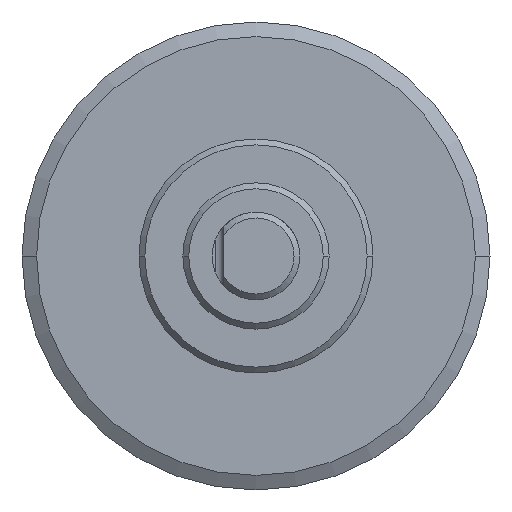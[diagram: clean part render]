
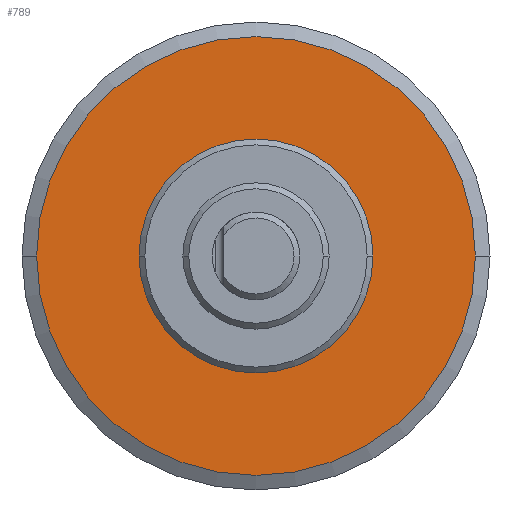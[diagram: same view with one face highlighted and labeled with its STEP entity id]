
A CAD part, left-side view. The second image highlights one B-rep face of the part: STEP entity #789.
In plain terms, the highlighted planar face has unit normal (-1, 0, 0).
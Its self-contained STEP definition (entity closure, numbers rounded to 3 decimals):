
#191=CARTESIAN_POINT('',(-10.2,0.,0.));
#192=DIRECTION('',(1.,0.,0.));
#193=DIRECTION('',(0.,-1.,0.));
#194=AXIS2_PLACEMENT_3D('',#191,#192,#193);
#196=CARTESIAN_POINT('',(-10.2,0.,0.));
#197=DIRECTION('',(1.,0.,0.));
#198=DIRECTION('',(0.,0.,-1.));
#199=AXIS2_PLACEMENT_3D('',#196,#197,#198);
#201=CARTESIAN_POINT('',(-10.2,0.,0.));
#202=DIRECTION('',(1.,0.,0.));
#203=DIRECTION('',(0.,1.,0.));
#204=AXIS2_PLACEMENT_3D('',#201,#202,#203);
#206=CARTESIAN_POINT('',(-10.2,0.,0.));
#207=DIRECTION('',(-1.,0.,0.));
#208=DIRECTION('',(0.,-1.,0.));
#209=AXIS2_PLACEMENT_3D('',#206,#207,#208);
#211=CARTESIAN_POINT('',(-10.2,0.,0.));
#212=DIRECTION('',(-1.,0.,0.));
#213=DIRECTION('',(0.,1.,0.));
#214=AXIS2_PLACEMENT_3D('',#211,#212,#213);
#440=CARTESIAN_POINT('',(-10.2,-3.75,0.));
#441=VERTEX_POINT('',#440);
#442=CARTESIAN_POINT('',(-10.2,0.,
-3.75));
#443=VERTEX_POINT('',#442);
#444=CARTESIAN_POINT('',(-10.2,3.75,0.));
#445=VERTEX_POINT('',#444);
#450=CARTESIAN_POINT('',(-10.2,-2.,0.));
#451=CARTESIAN_POINT('',(-10.2,2.,0.));
#452=VERTEX_POINT('',#450);
#453=VERTEX_POINT('',#451);
#772=CARTESIAN_POINT('',(-10.2,0.,0.));
#773=DIRECTION('',(1.,0.,0.));
#774=DIRECTION('',(0.,-1.,0.));
#775=AXIS2_PLACEMENT_3D('',#772,#773,#774);
#776=PLANE('',#775);
#778=ORIENTED_EDGE('',*,*,#777,.T.);
#780=ORIENTED_EDGE('',*,*,#779,.T.);
#782=ORIENTED_EDGE('',*,*,#781,.T.);
#783=EDGE_LOOP('',(#778,#780,#782));
#784=FACE_OUTER_BOUND('',#783,.F.);
#785=ORIENTED_EDGE('',*,*,#751,.T.);
#786=ORIENTED_EDGE('',*,*,#766,.T.);
#787=EDGE_LOOP('',(#785,#786));
#788=FACE_BOUND('',#787,.F.);
#195=CIRCLE('',#194,3.75);
#200=CIRCLE('',#199,3.75);
#205=CIRCLE('',#204,3.75);
#210=CIRCLE('',#209,2.);
#215=CIRCLE('',#214,2.);
#751=EDGE_CURVE('',#452,#453,#210,.T.);
#766=EDGE_CURVE('',#453,#452,#215,.T.);
#777=EDGE_CURVE('',#441,#443,#195,.T.);
#779=EDGE_CURVE('',#443,#445,#200,.T.);
#781=EDGE_CURVE('',#445,#441,#205,.T.);
#789=ADVANCED_FACE('',(#784,#788),#776,.F.);
